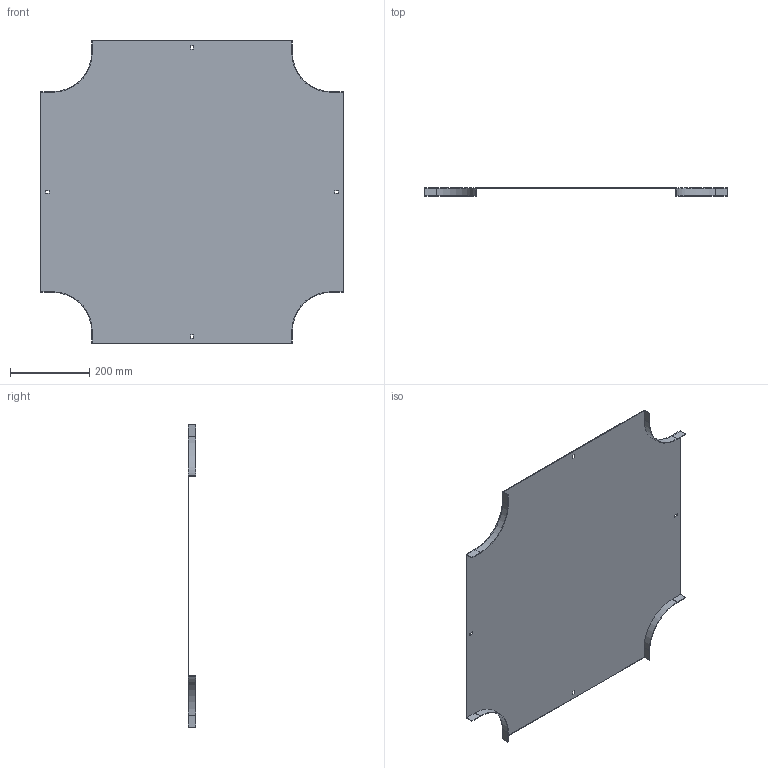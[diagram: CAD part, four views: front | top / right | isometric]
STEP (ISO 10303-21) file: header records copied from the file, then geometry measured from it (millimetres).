
FILE_DESCRIPTION (( 'STEP AP214' ), '1' );
FILE_NAME ('17G1R500.step', '2025-02-21T13:03:26', ( '' ), ( '' ), 'SwSTEP 2.0', 'SolidWorks 2023', '' );
FILE_SCHEMA (( 'AUTOMOTIVE_DESIGN' ));
Length unit declared in the file: millimetre
Products named in the file (1): 17G1R500
Bounding box: 764 x 20 x 764 mm (x, y, z)
Volume: 812577.3 mm3; surface area: 1088174.7 mm2
Topology: 1 solids, 1 shells, 50 faces, 144 edges, 96 vertices
Faces by surface type: plane 42, cylinder 8
Entity records: 1663 total; most frequent: CARTESIAN_POINT 291, ORIENTED_EDGE 288, DIRECTION 262, EDGE_CURVE 144, LINE 128, VECTOR 128, VERTEX_POINT 96, AXIS2_PLACEMENT_3D 67
